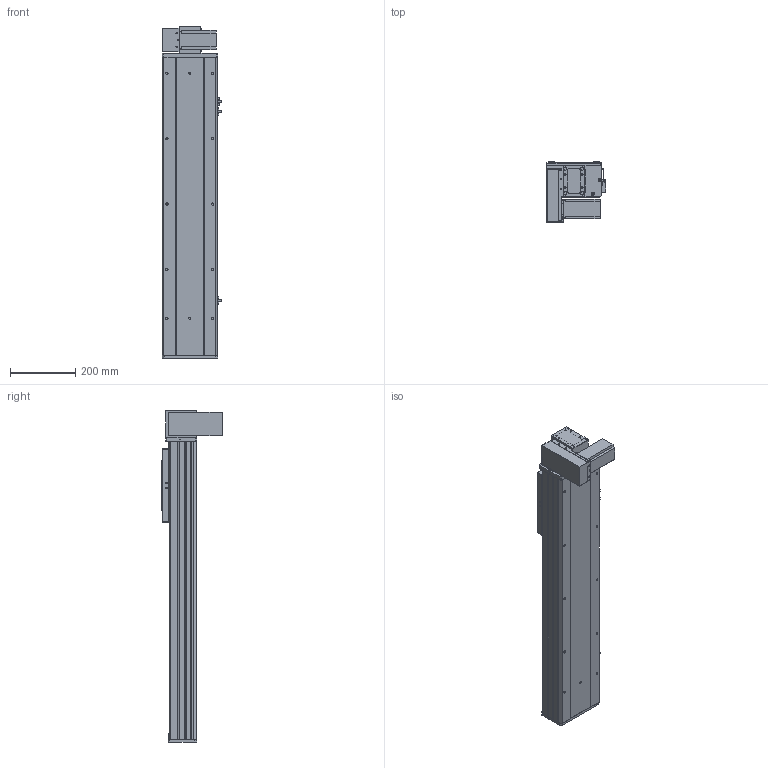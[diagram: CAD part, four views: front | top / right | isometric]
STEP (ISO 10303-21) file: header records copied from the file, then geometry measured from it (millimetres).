
FILE_DESCRIPTION (( 'STEP AP203' ), '1' );
FILE_NAME ('Y170CB-D105-S600-BM-P400W.STEP', '2020-02-20T06:15:38', ( '微软用户' ), ( '微软中国' ), 'SwSTEP 2.0', 'SolidWorks 2017', '' );
FILE_SCHEMA (( 'CONFIG_CONTROL_DESIGN' ));
Length unit declared in the file: millimetre
Products named in the file (18): 70B喘謫眊----; 70C-雄赽釱-奻-; B-源倛裔啣; Y170CB-D105-S600-BM-P400W; 0C--雄赽釱俋欶-170; 0B-萇儂楊擘啣; 70CB-詩湍--; san松下电机400不带刹车----; Y100-135俋离換覜ん--; 70CB-掛极-; Y170CB-陔俋离換覜結え---; --70CB --喘謫眊楊擘啣-; Y1埴倛裔; 70CB-耜裔啣-; 17B-耜蚾蟀諉啣----; 70C--詩湍揤踡え-; 00B-俋欶BM--163; 70CB--耜裔
Assembly tree (21 placements, depth 2):
  Y170CB-D105-S600-BM-P400W
    B-源倛裔啣
    0B-萇儂楊擘啣
    san松下电机400不带刹车----
    70CB-掛极-
    --70CB --喘謫眊楊擘啣-
    70CB-耜裔啣-  x2
    70C--詩湍揤踡え-  x2
    70CB--耜裔
    70C-雄赽釱-奻-
    0C--雄赽釱俋欶-170
    70CB-詩湍--
    Y100-135俋离換覜ん--  x3
    Y170CB-陔俋离換覜結え---
    Y1埴倛裔
    17B-耜蚾蟀諉啣----
    00B-俋欶BM--163
    70B喘謫眊----
Bounding box: 183.5 x 184 x 1016 mm (x, y, z)
Volume: 4964632.3 mm3; surface area: 1770322.6 mm2
Topology: 21 solids, 21 shells, 991 faces, 2645 edges, 1754 vertices
Faces by surface type: cylinder 505, plane 462, cone 24
Entity records: 31452 total; most frequent: CARTESIAN_POINT 5736, DIRECTION 5114, ORIENTED_EDGE 4772, EDGE_CURVE 2386, AXIS2_PLACEMENT_3D 1868, VERTEX_POINT 1584, LINE 1378, VECTOR 1378
